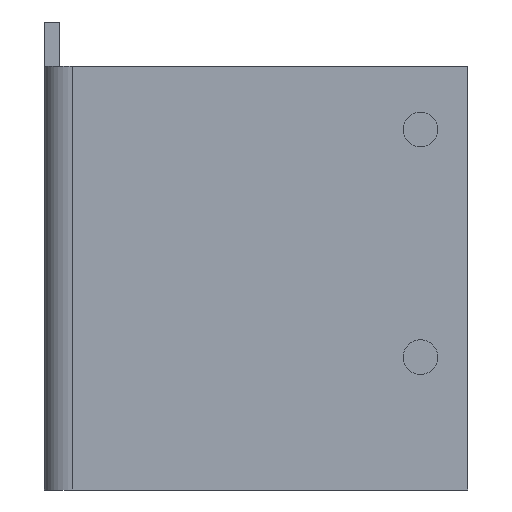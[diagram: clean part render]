
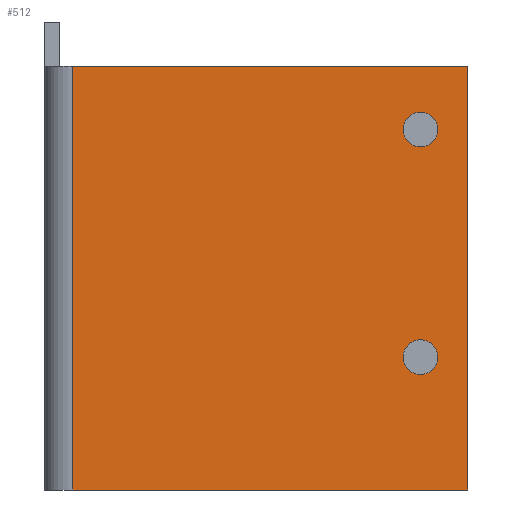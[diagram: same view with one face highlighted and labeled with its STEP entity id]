
A CAD part, front view. The second image highlights one B-rep face of the part: STEP entity #512.
In plain terms, the highlighted planar face has unit normal (0, -1, 0).
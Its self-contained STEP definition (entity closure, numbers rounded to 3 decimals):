
#1=DIRECTION('',(0.,0.,-1.));
#2=VECTOR('',#1,67.);
#3=CARTESIAN_POINT('',(4.5,0.,33.5));
#4=LINE('',#3,#2);
#5=CARTESIAN_POINT('',(59.5,0.,-12.5));
#6=DIRECTION('',(0.,-1.,0.));
#7=DIRECTION('',(0.,0.,-1.));
#8=AXIS2_PLACEMENT_3D('',#5,#6,#7);
#10=CARTESIAN_POINT('',(59.5,0.,-12.5));
#11=DIRECTION('',(0.,-1.,0.));
#12=DIRECTION('',(0.,0.,1.));
#13=AXIS2_PLACEMENT_3D('',#10,#11,#12);
#15=CARTESIAN_POINT('',(59.5,0.,23.5));
#16=DIRECTION('',(0.,-1.,0.));
#17=DIRECTION('',(0.,0.,-1.));
#18=AXIS2_PLACEMENT_3D('',#15,#16,#17);
#20=CARTESIAN_POINT('',(59.5,0.,23.5));
#21=DIRECTION('',(0.,-1.,0.));
#22=DIRECTION('',(0.,0.,1.));
#23=AXIS2_PLACEMENT_3D('',#20,#21,#22);
#25=DIRECTION('',(1.,0.,0.));
#26=VECTOR('',#25,62.5);
#27=CARTESIAN_POINT('',(4.5,0.,33.5));
#28=LINE('',#27,#26);
#69=DIRECTION('',(1.,0.,0.));
#70=VECTOR('',#69,62.5);
#71=CARTESIAN_POINT('',(4.5,0.,-33.5));
#72=LINE('',#71,#70);
#81=DIRECTION('',(0.,0.,-1.));
#82=VECTOR('',#81,67.);
#83=CARTESIAN_POINT('',(67.,0.,33.5));
#84=LINE('',#83,#82);
#388=CARTESIAN_POINT('',(4.5,0.,33.5));
#390=VERTEX_POINT('',#388);
#391=CARTESIAN_POINT('',(67.,0.,33.5));
#392=VERTEX_POINT('',#391);
#401=CARTESIAN_POINT('',(4.5,0.,-33.5));
#402=VERTEX_POINT('',#401);
#403=CARTESIAN_POINT('',(67.,0.,-33.5));
#404=VERTEX_POINT('',#403);
#469=CARTESIAN_POINT('',(59.5,0.,-15.25));
#470=CARTESIAN_POINT('',(59.5,0.,-9.75));
#471=VERTEX_POINT('',#469);
#472=VERTEX_POINT('',#470);
#473=CARTESIAN_POINT('',(59.5,0.,20.75));
#474=CARTESIAN_POINT('',(59.5,0.,26.25));
#475=VERTEX_POINT('',#473);
#476=VERTEX_POINT('',#474);
#485=CARTESIAN_POINT('',(4.5,0.,33.5));
#486=DIRECTION('',(0.,-1.,0.));
#487=DIRECTION('',(1.,0.,0.));
#488=AXIS2_PLACEMENT_3D('',#485,#486,#487);
#489=PLANE('',#488);
#491=ORIENTED_EDGE('',*,*,#490,.T.);
#493=ORIENTED_EDGE('',*,*,#492,.T.);
#495=ORIENTED_EDGE('',*,*,#494,.F.);
#497=ORIENTED_EDGE('',*,*,#496,.F.);
#498=EDGE_LOOP('',(#491,#493,#495,#497));
#499=FACE_OUTER_BOUND('',#498,.F.);
#501=ORIENTED_EDGE('',*,*,#500,.T.);
#503=ORIENTED_EDGE('',*,*,#502,.T.);
#504=EDGE_LOOP('',(#501,#503));
#505=FACE_BOUND('',#504,.F.);
#507=ORIENTED_EDGE('',*,*,#506,.T.);
#509=ORIENTED_EDGE('',*,*,#508,.T.);
#510=EDGE_LOOP('',(#507,#509));
#511=FACE_BOUND('',#510,.F.);
#512=ADVANCED_FACE('',(#499,#505,#511),#489,.T.);
#9=CIRCLE('',#8,2.75);
#14=CIRCLE('',#13,2.75);
#19=CIRCLE('',#18,2.75);
#24=CIRCLE('',#23,2.75);
#490=EDGE_CURVE('',#390,#392,#28,.T.);
#492=EDGE_CURVE('',#392,#404,#84,.T.);
#494=EDGE_CURVE('',#402,#404,#72,.T.);
#496=EDGE_CURVE('',#390,#402,#4,.T.);
#500=EDGE_CURVE('',#471,#472,#9,.T.);
#502=EDGE_CURVE('',#472,#471,#14,.T.);
#506=EDGE_CURVE('',#475,#476,#19,.T.);
#508=EDGE_CURVE('',#476,#475,#24,.T.);
